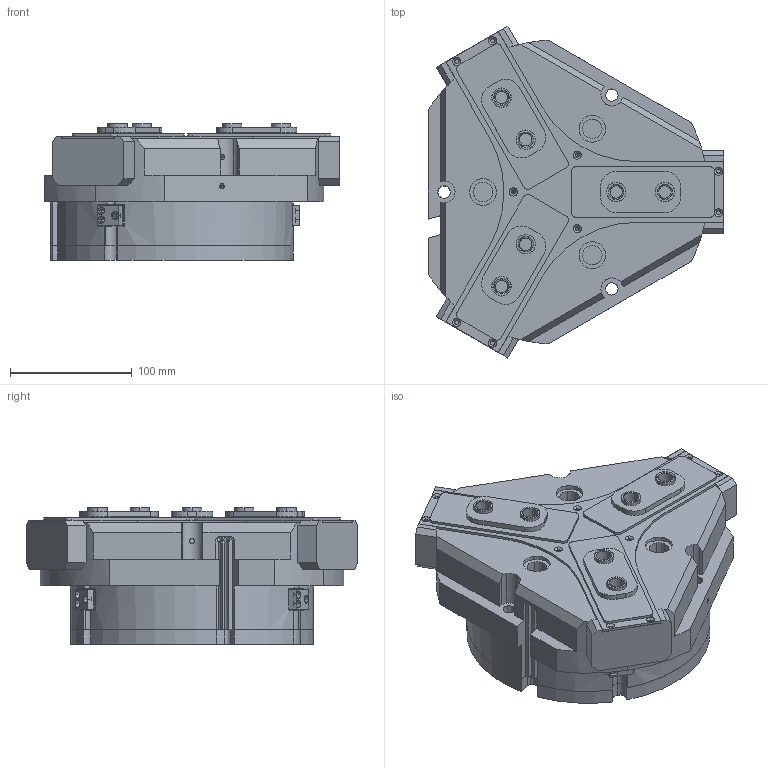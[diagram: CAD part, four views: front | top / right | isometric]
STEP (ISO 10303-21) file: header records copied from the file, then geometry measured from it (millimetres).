
FILE_DESCRIPTION (( 'STEP AP214' ), '1' );
FILE_NAME ('FCT 200A-1-SD.STEP', '2021-09-17T11:25:23', ( 'DEEP' ), ( 'Microsoft' ), 'SwSTEP 2.0', 'SolidWorks 2016', '' );
FILE_SCHEMA (( 'AUTOMOTIVE_DESIGN' ));
Length unit declared in the file: millimetre
Products named in the file (35): FCT 200A-1 - SD-002A_1; FCT 200A-1 - SD-001A_1; 8瘍隅弇杶-SDA_1; FCT200A-1-01-002A_2_1; FCT200A-1-01-001A_2; FCT 200A-1-SD; FCT 200A-1 - SD-004A_1; FCT 200A-1 - SD-003A_1; FPT-000-1-01-003A_2; FCT200A-1-01-008A_3; FCT 200A-1 - SDA_1
Assembly tree (25 placements, depth 3):
  FCT 200A-1 - SD-002A_1
  FCT 200A-1 - SD-001A_1
  FCT 200A-1 - SD-001A_1
  8瘍隅弇杶-SDA_1
  FCT 200A-1 - SD-001A_1
Bounding box: 243 x 273.02 x 112.4 mm (x, y, z)
Volume: 3566629.4 mm3; surface area: 437286.9 mm2
Topology: 24 solids, 24 shells, 1008 faces, 2618 edges, 1684 vertices
Faces by surface type: plane 483, cylinder 387, cone 130, bspline 8
Entity records: 28420 total; most frequent: CARTESIAN_POINT 5152, DIRECTION 3358, ORIENTED_EDGE 3200, EDGE_CURVE 1600, AXIS2_PLACEMENT_3D 1208, VERTEX_POINT 1048, LINE 942, VECTOR 942
